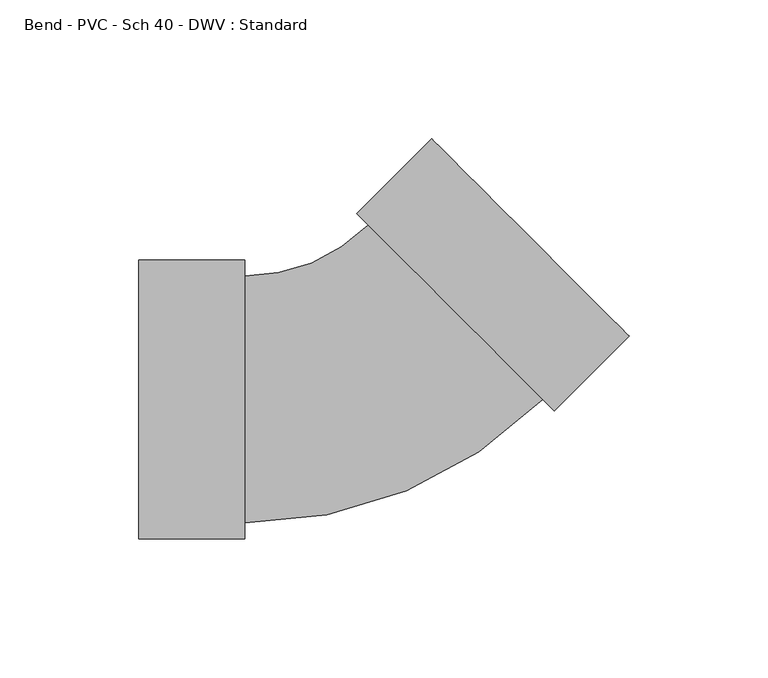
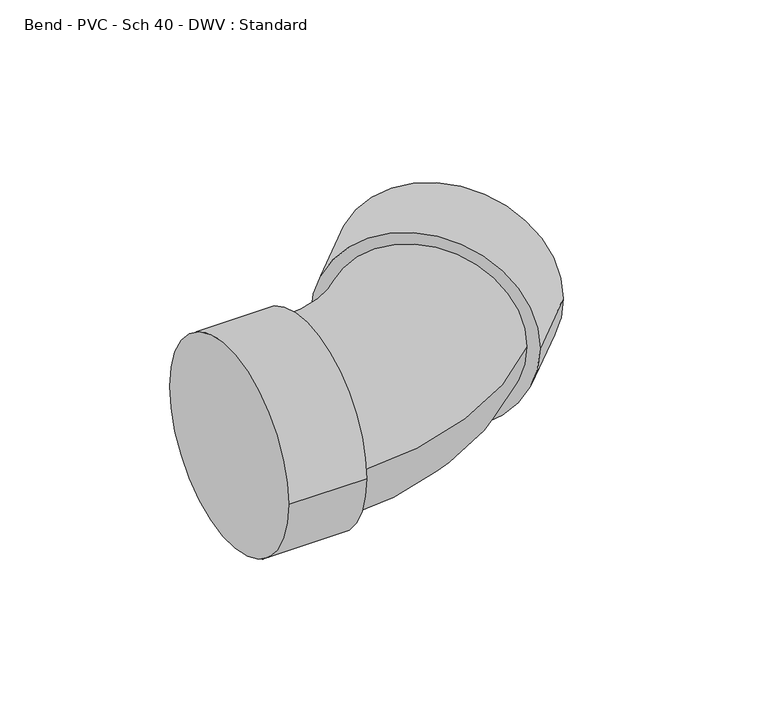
"""IFC4 building model written with IfcOpenShell, lengths in millimetres: pipe fitting geometry, Bend - PVC - Sch 40 - DWV : Standard."""

from ifc_helpers import new_model, si_unit, point, frame, origin, place, context, project, spatial, circle_curve, ellipse_curve, trimmed, source, transform, mapped, element, save
from ifc_brep_helpers import plane_surface, cylinder_surface, revolved_surface, advanced_brep


def bend_pvc_sch_40_dwv_standard_c60b09ea(model_context):
    return source(origin(), model_context, "Body", "AdvancedBrep", [
        advanced_brep(
        [(-82.55, -50.2666, 0.0), (-82.55, 50.2666, 0.0), (-44.45, -50.2666, 0.0), (-44.45, 50.2666, 0.0), (-44.45, -44.45, 0.0), (-44.45, 44.45, 0.0), (0.017208, 62.8617905, 0.0), (62.8617905, -0.017208, 0.0), (66.9736217, -4.131291, 0.0), (-4.0946233, 66.9758735, 0.0), (93.921764, 22.8021015, 0.0), (22.8535189, 93.909266, 0.0)],
        [
            (0, 1, circle_curve(frame((-82.55, 0.0, 0.0), z_axis=(-1.0, 0.0, 0.0), x_axis=(0.0, 1.0, 0.0)), 50.2666)),
            (1, 0, circle_curve(frame((-82.55, 0.0, 0.0), z_axis=(-1.0, 0.0, 0.0), x_axis=(0.0, 1.0, 0.0)), 50.2666)),
            (2, 3, circle_curve(frame((-44.45, 0.0, 0.0), z_axis=(1.0, 0.0, 0.0), x_axis=(0.0, 1.0, 0.0)), 50.2666)),
            (3, 2, circle_curve(frame((-44.45, 0.0, 0.0), z_axis=(1.0, 0.0, 0.0), x_axis=(0.0, 1.0, 0.0)), 50.2666)),
            (4, 5, circle_curve(frame((-44.45, 0.0, 0.0), z_axis=(-1.0, 0.0, 0.0), x_axis=(0.0, 1.0, 0.0)), 44.45)),
            (5, 4, circle_curve(frame((-44.45, 0.0, 0.0), z_axis=(-1.0, 0.0, 0.0), x_axis=(0.0, 1.0, 0.0)), 44.45)),
            (0, 2),
            (3, 1),
            (6, 5, circle_curve(frame((-44.45, 107.3533503, 0.0), z_axis=(0.0, 0.0, -1.0), x_axis=(0.0, -1.0, 0.0)), 62.9033503)),
            (4, 7, circle_curve(frame((-44.45, 107.3533503, 0.0), z_axis=(0.0, 0.0, 1.0), x_axis=(0.0, -1.0, 0.0)), 151.8033503)),
            (7, 6, circle_curve(frame((31.4394992, 31.4222913, 0.0), z_axis=(-0.7073003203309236, -0.7069131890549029, 0.0), x_axis=(-0.7069131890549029, 0.7073003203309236, 0.0)), 44.45)),
            (6, 7, circle_curve(frame((31.4394992, 31.4222913, 0.0), z_axis=(-0.7073003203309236, -0.7069131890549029, 0.0), x_axis=(-0.7069131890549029, 0.7073003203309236, 0.0)), 44.45)),
            (8, 9, circle_curve(frame((31.4394992, 31.4222913, 0.0), z_axis=(-0.7073003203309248, -0.7069131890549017, 0.0), x_axis=(-0.7069131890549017, 0.7073003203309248, 0.0)), 50.2666)),
            (9, 8, circle_curve(frame((31.4394992, 31.4222913, 0.0), z_axis=(-0.7073003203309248, -0.7069131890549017, 0.0), x_axis=(-0.7069131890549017, 0.7073003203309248, 0.0)), 50.2666)),
            (10, 11, circle_curve(frame((58.3876414, 58.3556838, 0.0), z_axis=(0.7073003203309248, 0.7069131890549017, 0.0), x_axis=(-0.7069131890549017, 0.7073003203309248, 0.0)), 50.2666)),
            (11, 10, circle_curve(frame((58.3876414, 58.3556838, 0.0), z_axis=(0.7073003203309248, 0.7069131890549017, 0.0), x_axis=(-0.7069131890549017, 0.7073003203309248, 0.0)), 50.2666)),
            (8, 10),
            (11, 9),
        ],
        [
            plane_surface(frame((-82.55, 0.0, 0.0), z_axis=(-1.0, 0.0, 0.0), x_axis=(0.0, 0.0, 1.0))),
            plane_surface(frame((-44.45, 0.0, 0.0), z_axis=(1.0, 0.0, 0.0), x_axis=(0.0, 0.0, 1.0))),
            cylinder_surface(frame((-82.55, 0.0, 0.0), z_axis=(-1.0, 0.0, 0.0), x_axis=(0.0, 1.0, 0.0)), 50.2666),
            revolved_surface(trimmed(ellipse_curve(frame((-44.45, 0.0, 0.0), z_axis=(-1.0, 0.0, 0.0), x_axis=(0.0, 1.0, 0.0)), 44.45, 44.45), [point((-44.45, -44.45, 0.0))], [point((-44.45, 44.45, 0.0))], True, "CARTESIAN"), (-44.45, 107.3533503, 0.0), (0.0, 0.0, 1.0)),
            revolved_surface(trimmed(ellipse_curve(frame((-44.45, 0.0, 0.0), z_axis=(-1.0, 0.0, 0.0), x_axis=(0.0, 1.0, 0.0)), 44.45, 44.45), [point((-44.45, 44.45, 0.0))], [point((-44.45, -44.45, 0.0))], True, "CARTESIAN"), (-44.45, 107.3533503, 0.0), (0.0, 0.0, 1.0)),
            plane_surface(frame((31.4394992, 31.4222913, 0.0), z_axis=(-0.7073003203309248, -0.7069131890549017, 0.0), x_axis=(0.0, 0.0, 1.0))),
            plane_surface(frame((58.3876414, 58.3556838, 0.0), z_axis=(0.7073003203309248, 0.7069131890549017, 0.0), x_axis=(0.0, 0.0, 1.0))),
            cylinder_surface(frame((31.4394992, 31.4222913, 0.0), z_axis=(-0.7073003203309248, -0.7069131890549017, 0.0), x_axis=(-0.7069131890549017, 0.7073003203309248, 0.0)), 50.2666),
        ],
        [
            (0, [[1, 2]]),
            (1, [[3, 4], [5, 6]]),
            (2, [[-1, 7, -4, 8]]),
            (2, [[-2, -8, -3, -7]]),
            (3, [[9, -5, 10, 11]]),
            (4, [[-9, 12, -10, -6]]),
            (5, [[13, 14], [-11, -12]]),
            (6, [[15, 16]]),
            (7, [[-13, 17, -16, 18]]),
            (7, [[-14, -18, -15, -17]]),
        ],
    ),
    ])


if __name__ == "__main__":
    model = new_model("IFC4")
    model_context = context("Model", 3, world=origin())
    ifc_project = project(units=[si_unit("LENGTHUNIT", "METRE", prefix="MILLI")], contexts=[model_context])
    site = spatial("IfcSite", under=ifc_project)
    building = spatial("IfcBuilding", under=site)
    placement = place(None, origin())
    bend_pvc_sch_40_dwv_standard_shape = bend_pvc_sch_40_dwv_standard_c60b09ea(model_context)
    element("IfcPipeFitting", 1, ObjectType="Bend - PVC - Sch 40 - DWV : Standard", at=placement, inside=building, context=model_context, shape_type="MappedRepresentation", body=[
        mapped(bend_pvc_sch_40_dwv_standard_shape, transform((0.0, 0.0, 0.0), x_axis=(1.0, 0.0, 0.0), y_axis=(0.0, 1.0, 0.0), z_axis=(0.0, 0.0, 1.0))),
    ])
    save(model, "model.ifc")
